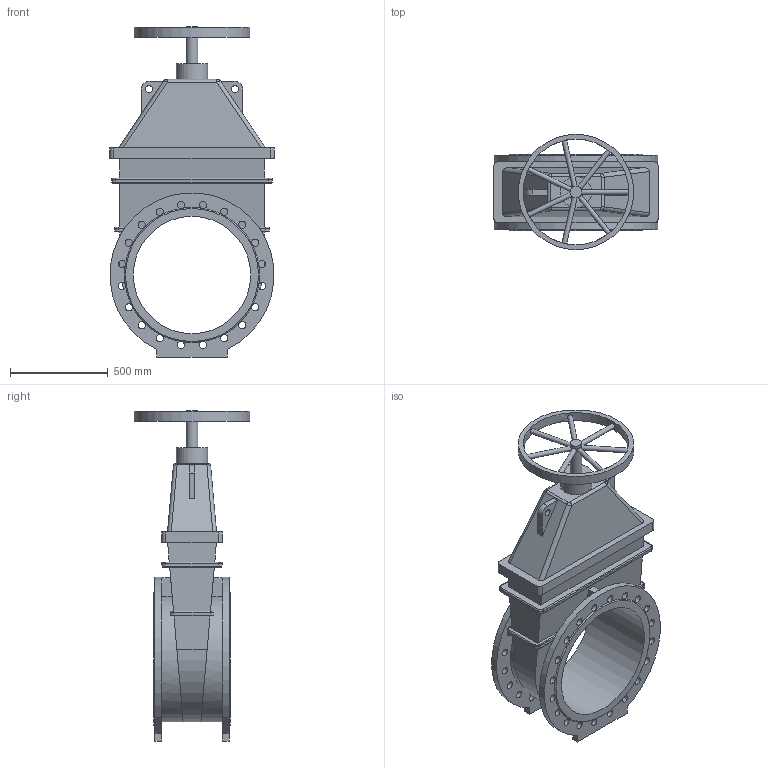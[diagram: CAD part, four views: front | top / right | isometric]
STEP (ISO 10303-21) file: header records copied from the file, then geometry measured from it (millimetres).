
FILE_DESCRIPTION(('STEP AP203'), '1');
FILE_NAME('Çàäâèæêà 47GV DN600 PN16_L390 ñ ìàõîâèêîì', '', ('UNSPECIFIED'), ('UNSPECIFIED'), 'ASCON STEP Converter 1.6', 'ASCON Math Kernel', '');
FILE_SCHEMA(('CONFIG_CONTROL_DESIGN'));
Length unit declared in the file: millimetre
Bounding box: 840 x 590 x 1689 mm (x, y, z)
Volume: 155925782.4 mm3; surface area: 4887026.9 mm2
Topology: 1 solids, 1 shells, 219 faces, 677 edges, 436 vertices
Faces by surface type: cylinder 108, plane 85, bspline 16, torus 8, cone 2
Full cylindrical faces by diameter (mm): 25 x7, 36 x2, 37 x40, 60 x1, 160 x1, 540 x1, 590 x1, 600 x1
Entity records: 15152 total; most frequent: CARTESIAN_POINT 7417, ORIENTED_EDGE 1240, DIRECTION 1202, EDGE_CURVE 620, AXIS2_PLACEMENT_3D 482, VERTEX_POINT 436, EDGE_LOOP 352, FACE_BOUND 283
